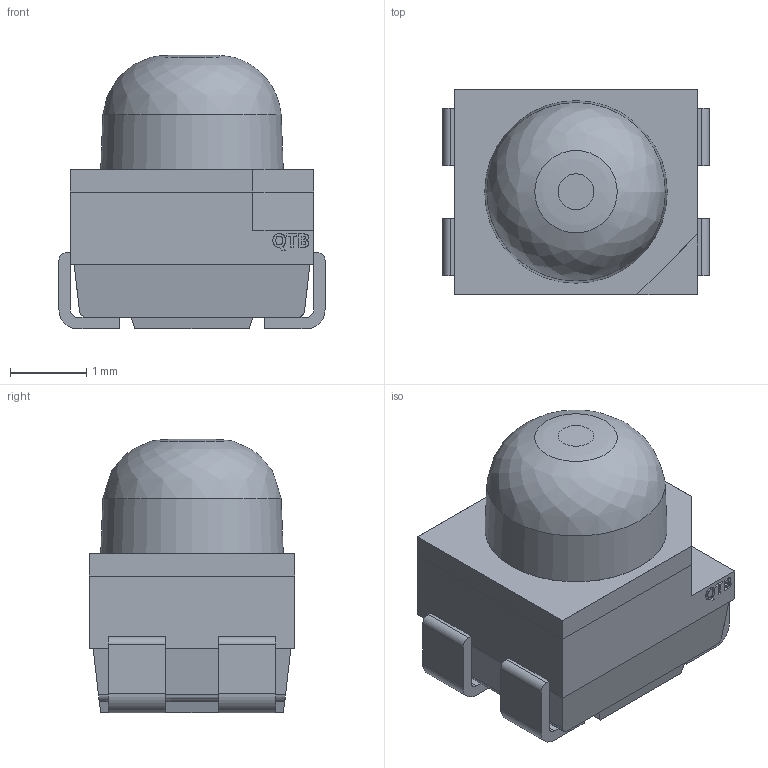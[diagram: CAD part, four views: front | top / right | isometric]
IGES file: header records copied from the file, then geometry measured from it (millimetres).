
Start section: Data from Parasolid IGES Translator 23.1.110, Copyright(c) 2006 Siemens PLM Software. All Rights Reserved.
Global section: file name: 5fab1203ec18cb0e88eac7dd.iges; native system: By Siemens PLM Incorporated; preprocessor: XPlus GENERIC/IGES 23.1.110; author: Noname; organization: Noname; date: 20201110.221947; units: metre
Bounding box: 3.5 x 2.7 x 3.6 mm (x, y, z)
Surface area: 110.3 mm2 (no closed solid volume)
Topology: 0 solids, 0 shells, 157 faces, 832 edges, 820 vertices
Faces by surface type: extrusion 134, revolution 23
